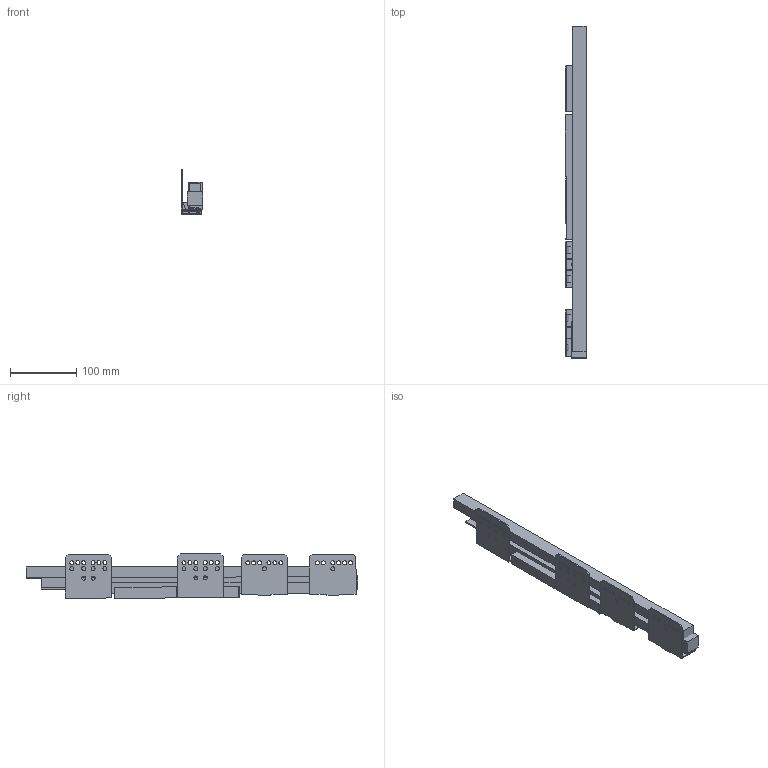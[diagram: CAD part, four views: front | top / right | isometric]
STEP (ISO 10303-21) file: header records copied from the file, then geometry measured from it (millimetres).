
FILE_DESCRIPTION (( 'STEP AP214' ), '1' );
FILE_NAME ('_IMOS Dynamic-XP VA 80kg NL500 LI.step', '2010-07-07T08:07:59', ( 'grass' ), ( '' ), 'SwSTEP 2.0', 'SolidWorks 2010', '' );
FILE_SCHEMA (( 'AUTOMOTIVE_DESIGN' ));
Length unit declared in the file: millimetre
Products named in the file (1): _IMOS Dynamic-XP VA 80kg NL500 LI
Bounding box: 32.79 x 499.89 x 66.67 mm (x, y, z)
Volume: 469640.9 mm3; surface area: 188553.1 mm2
Topology: 9 solids, 9 shells, 247 faces, 687 edges, 458 vertices
Faces by surface type: plane 167, cylinder 80
Entity records: 8167 total; most frequent: CARTESIAN_POINT 1393, ORIENTED_EDGE 1374, DIRECTION 1343, EDGE_CURVE 687, LINE 527, VECTOR 527, VERTEX_POINT 458, AXIS2_PLACEMENT_3D 408
